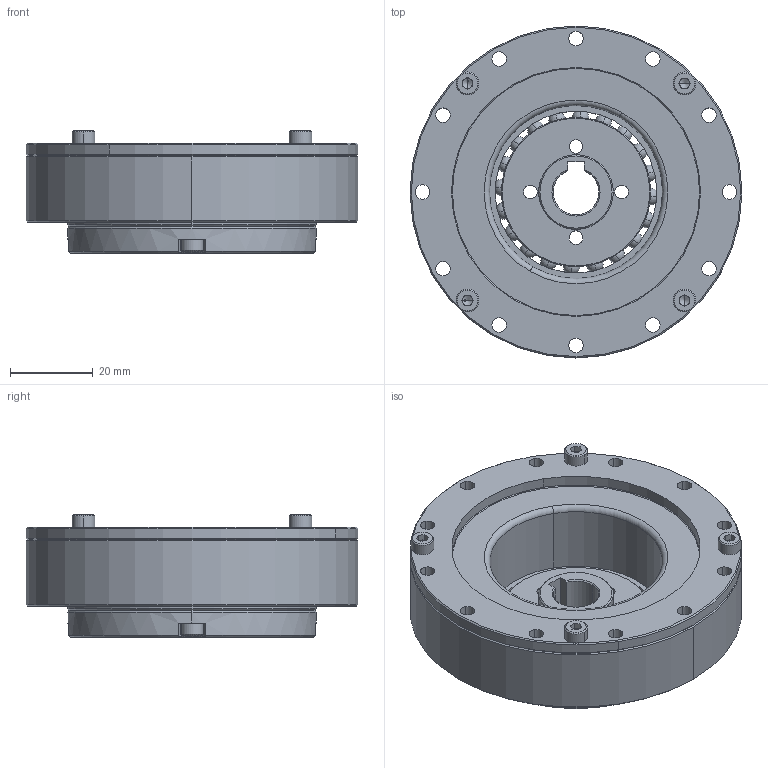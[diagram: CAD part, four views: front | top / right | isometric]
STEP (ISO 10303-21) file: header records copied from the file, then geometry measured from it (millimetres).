
FILE_DESCRIPTION (( 'STEP AP203' ), '1' );
FILE_NAME ('BHS-17-XXX-U-¢ñ.STEP', '2019-01-15T03:43:08', ( 'User' ), ( 'China' ), 'SwSTEP 2.0', 'SolidWorks 2015', '' );
FILE_SCHEMA (( 'CONFIG_CONTROL_DESIGN' ));
Length unit declared in the file: millimetre
Products named in the file (1): BHS-17-XXX-U-ｉ
Bounding box: 80 x 80 x 29.5 mm (x, y, z)
Surface area: 37426.6 mm2 (no closed solid volume)
Topology: 0 solids, 17 shells, 422 faces, 1374 edges, 900 vertices
Faces by surface type: cylinder 148, plane 117, cone 67, torus 46, sphere 40, bspline 4
Entity records: 16883 total; most frequent: CARTESIAN_POINT 5281, DIRECTION 2506, ORIENTED_EDGE 2214, EDGE_CURVE 1258, AXIS2_PLACEMENT_3D 1026, VERTEX_POINT 840, CIRCLE 607, EDGE_LOOP 556
